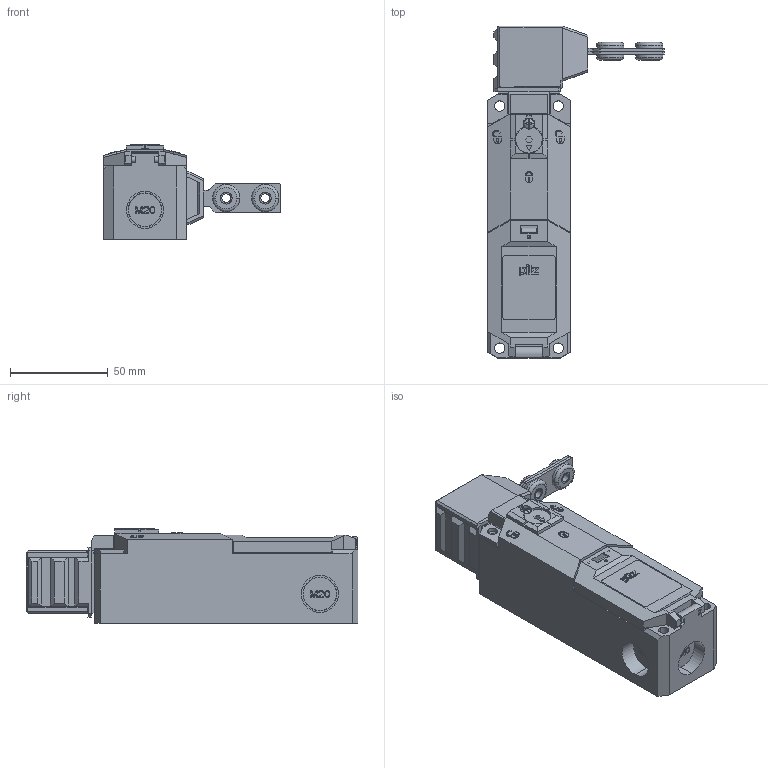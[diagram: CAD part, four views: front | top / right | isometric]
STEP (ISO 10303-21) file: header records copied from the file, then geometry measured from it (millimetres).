
FILE_DESCRIPTION((''),'2;1');
FILE_NAME('2007561_ASM','2010-07-13T',('merz'),(''),'PRO/ENGINEER BY PARAMETRIC TECHNOLOGY CORPORATION, 2009380','PRO/ENGINEER BY PARAMETRIC TECHNOLOGY CORPORATION, 2009380','');
FILE_SCHEMA(('AUTOMOTIVE_DESIGN_CC2 { 1 2 10303 214 -1 1 5 2 }'));
Length unit declared in the file: millimetre
Products named in the file (4): 2007555; 2007556; 2007553; 2007561_ASM
Assembly tree (3 placements, depth 2):
  2007561_ASM
    2007555
    2007556
    2007553
Bounding box: 90.65 x 170 x 48.7 mm (x, y, z)
Surface area: 101794.1 mm2
Topology: 5 solids, 77 shells, 2155 faces, 7128 edges, 4977 vertices
Faces by surface type: plane 1522, cylinder 447, torus 56, cone 53, bspline 40, sphere 31, revolution 4, extrusion 2
Entity records: 110423 total; most frequent: CARTESIAN_POINT 27004, ORIENTED_EDGE 12516, DIRECTION 12081, PRESENTATION_STYLE_ASSIGNMENT 7172, STYLED_ITEM 7167, CURVE_STYLE 7090, EDGE_CURVE 7081, VECTOR 5335
